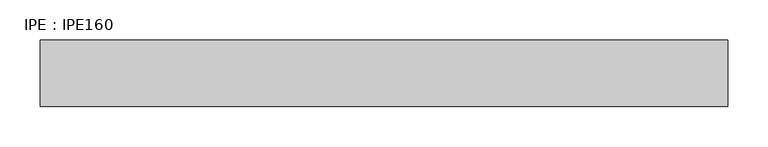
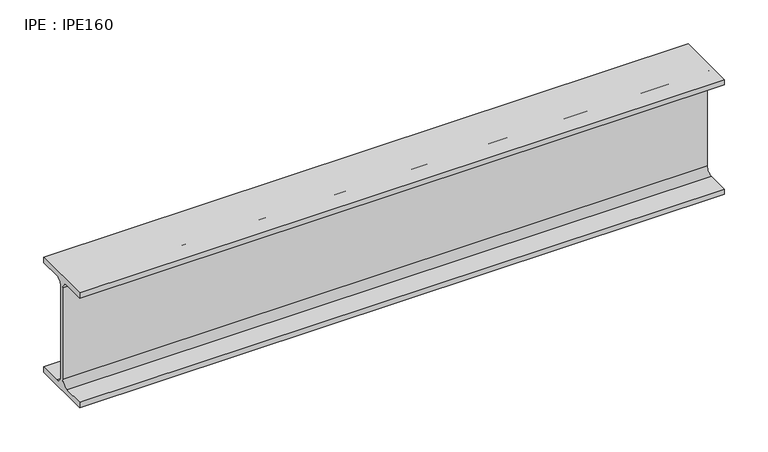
"""IFC4 building model written with IfcOpenShell, lengths in millimetres: beam geometry, IPE : IPE160."""

from ifc_helpers import new_model, si_unit, point, frame, frame_2d, origin, place, context, project, spatial, polyline, circle_curve, trimmed, segment, composite_curve, outline, extrude, source, transform, mapped, element, save


def ipe_ipe160_8bf3f36b(model_context):
    return source(origin(), model_context, "Body", "SweptSolid", [
        extrude(outline(composite_curve([segment(polyline([(41.0, -72.6), (41.0, -80.0), (-41.0, -80.0), (-41.0, -72.6), (-11.5, -72.6)]), True, "CONTINUOUS"), segment(trimmed(circle_curve(frame_2d((-11.5, -63.6)), 9.0), [point((-11.5, -72.6))], [point((-2.5, -63.6))], True, "CARTESIAN"), True, "CONTINUOUS"), segment(polyline([(-2.5, -63.6), (-2.5, 63.6)]), True, "CONTINUOUS"), segment(trimmed(circle_curve(frame_2d((-11.5, 63.6)), 9.0), [point((-2.5, 63.6))], [point((-11.5, 72.6))], True, "CARTESIAN"), True, "CONTINUOUS"), segment(polyline([(-11.5, 72.6), (-41.0, 72.6), (-41.0, 80.0), (41.0, 80.0), (41.0, 72.6), (11.5, 72.6)]), True, "CONTINUOUS"), segment(trimmed(circle_curve(frame_2d((11.5, 63.6)), 9.0), [point((11.5, 72.6))], [point((2.5, 63.6))], True, "CARTESIAN"), True, "CONTINUOUS"), segment(polyline([(2.5, 63.6), (2.5, -63.6)]), True, "CONTINUOUS"), segment(trimmed(circle_curve(frame_2d((11.5, -63.6)), 9.0), [point((2.5, -63.6))], [point((11.5, -72.6))], True, "CARTESIAN"), True, "CONTINUOUS"), segment(polyline([(11.5, -72.6), (41.0, -72.6)]), True, "CONTINUOUS")], self_intersect=False)), frame((-387.35, 0.0, 0.0), z_axis=(1.0, 0.0, 0.0), x_axis=(0.0, 1.0, 0.0)), (0.0, 0.0, 1.0), 849.2),
    ])


if __name__ == "__main__":
    model = new_model("IFC4")
    model_context = context("Model", 3, world=origin())
    ifc_project = project(units=[si_unit("LENGTHUNIT", "METRE", prefix="MILLI")], contexts=[model_context])
    site = spatial("IfcSite", under=ifc_project)
    building = spatial("IfcBuilding", under=site)
    placement = place(None, origin())
    ipe_ipe160_shape = ipe_ipe160_8bf3f36b(model_context)
    element("IfcBeam", 1, ObjectType="IPE : IPE160", at=placement, inside=building, context=model_context, shape_type="MappedRepresentation", body=[
        mapped(ipe_ipe160_shape, transform((0.0, 0.0, 0.0), x_axis=(1.0, 0.0, 0.0), y_axis=(0.0, 1.0, 0.0), z_axis=(0.0, 0.0, 1.0))),
    ])
    save(model, "model.ifc")
